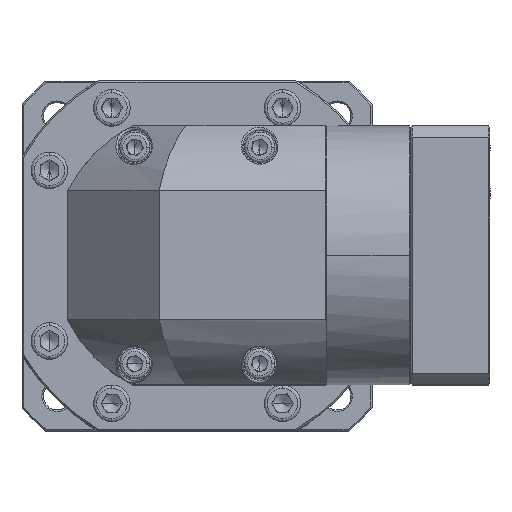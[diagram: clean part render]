
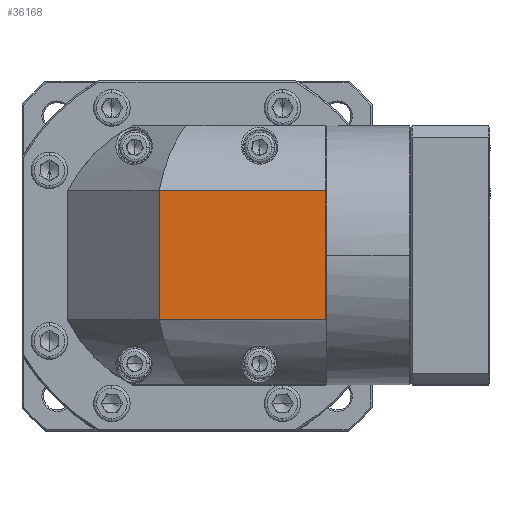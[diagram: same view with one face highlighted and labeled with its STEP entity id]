
A CAD part, top view. The second image highlights one B-rep face of the part: STEP entity #36168.
In plain terms, the highlighted planar face has unit normal (0, 0, 1).
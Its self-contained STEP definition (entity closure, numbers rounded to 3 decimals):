
#4003 = CARTESIAN_POINT ( 'NONE',  ( 46.018, 92.025, 49.062 ) ) ;
#16968 = LINE ( 'NONE', #93220, #92433 ) ;
#36168 = ADVANCED_FACE ( 'NONE', ( #37024 ), #132393, .T. ) ;
#37024 = FACE_OUTER_BOUND ( 'NONE', #81229, .T. ) ;
#38664 = ORIENTED_EDGE ( 'NONE', *, *, #73566, .F. ) ;
#43115 = VECTOR ( 'NONE', #80692, 1000. ) ;
#44594 = DIRECTION ( 'NONE',  ( 0., 0., 1. ) ) ;
#49321 = CARTESIAN_POINT ( 'NONE',  ( 100.518, 113.238, 49.062 ) ) ;
#52810 = AXIS2_PLACEMENT_3D ( 'NONE', #99753, #44594, #121383 ) ;
#60162 = ORIENTED_EDGE ( 'NONE', *, *, #92987, .F. ) ;
#61379 = CARTESIAN_POINT ( 'NONE',  ( 0.518, 113.238, 49.062 ) ) ;
#64395 = VECTOR ( 'NONE', #70068, 1000. ) ;
#65091 = LINE ( 'NONE', #133260, #116668 ) ;
#70068 = DIRECTION ( 'NONE',  ( 1., 0., 0. ) ) ;
#72210 = LINE ( 'NONE', #4003, #43115 ) ;
#73566 = EDGE_CURVE ( 'NONE', #86940, #101639, #16968, .T. ) ;
#80692 = DIRECTION ( 'NONE',  ( 0., 1., 0. ) ) ;
#81040 = VERTEX_POINT ( 'NONE', #111659 ) ;
#81229 = EDGE_LOOP ( 'NONE', ( #141878, #60162, #38664, #109454 ) ) ;
#86940 = VERTEX_POINT ( 'NONE', #121035 ) ;
#90609 = VERTEX_POINT ( 'NONE', #49321 ) ;
#92433 = VECTOR ( 'NONE', #137405, 1000. ) ;
#92987 = EDGE_CURVE ( 'NONE', #101639, #81040, #72210, .T. ) ;
#93220 = CARTESIAN_POINT ( 'NONE',  ( 0.518, 70.811, 49.062 ) ) ;
#99753 = CARTESIAN_POINT ( 'NONE',  ( 58.518, 92.025, 49.062 ) ) ;
#100597 = DIRECTION ( 'NONE',  ( 0., 1., 0. ) ) ;
#101639 = VERTEX_POINT ( 'NONE', #104465 ) ;
#104465 = CARTESIAN_POINT ( 'NONE',  ( 46.018, 70.811, 49.062 ) ) ;
#109454 = ORIENTED_EDGE ( 'NONE', *, *, #126053, .T. ) ;
#111659 = CARTESIAN_POINT ( 'NONE',  ( 46.018, 113.238, 49.062 ) ) ;
#116668 = VECTOR ( 'NONE', #100597, 1000. ) ;
#120616 = EDGE_CURVE ( 'NONE', #81040, #90609, #138298, .T. ) ;
#121035 = CARTESIAN_POINT ( 'NONE',  ( 100.518, 70.811, 49.062 ) ) ;
#121383 = DIRECTION ( 'NONE',  ( 1., 0., 0. ) ) ;
#126053 = EDGE_CURVE ( 'NONE', #86940, #90609, #65091, .T. ) ;
#132393 = PLANE ( 'NONE',  #52810 ) ;
#133260 = CARTESIAN_POINT ( 'NONE',  ( 100.518, 92.025, 49.062 ) ) ;
#137405 = DIRECTION ( 'NONE',  ( -1., 0., 0. ) ) ;
#138298 = LINE ( 'NONE', #61379, #64395 ) ;
#141878 = ORIENTED_EDGE ( 'NONE', *, *, #120616, .F. ) ;
